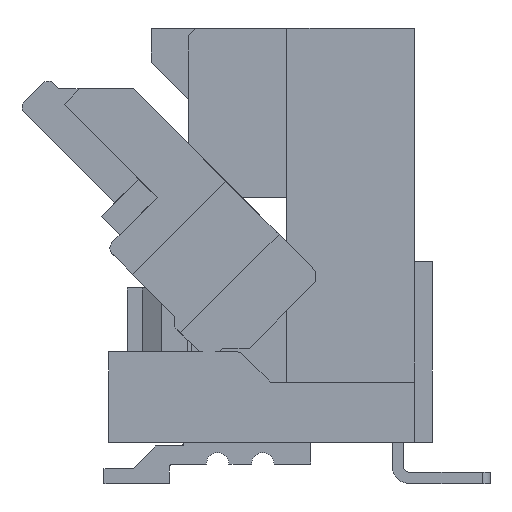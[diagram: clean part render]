
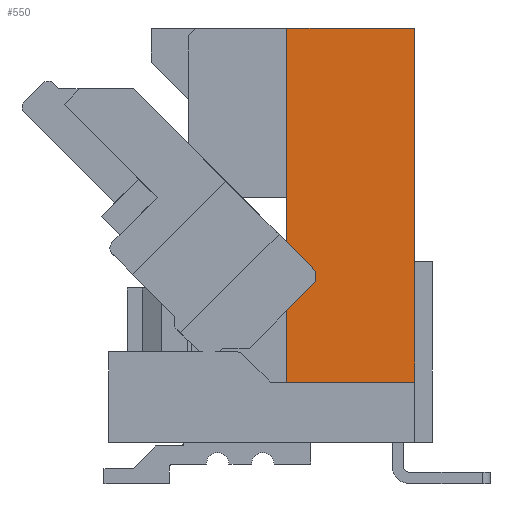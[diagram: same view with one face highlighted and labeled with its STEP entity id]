
A CAD part, left-side view. The second image highlights one B-rep face of the part: STEP entity #550.
In plain terms, the highlighted planar face has unit normal (-1, 0, 0).
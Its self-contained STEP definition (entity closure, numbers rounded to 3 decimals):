
#550=ADVANCED_FACE('',(#2570),#1635,.F.);
#1635=PLANE('',#22730);
#2570=FACE_OUTER_BOUND('',#3713,.T.);
#3713=EDGE_LOOP('',(#6888,#6889,#6890,#6891));
#6888=ORIENTED_EDGE('',*,*,#14292,.T.);
#6889=ORIENTED_EDGE('',*,*,#14469,.F.);
#6890=ORIENTED_EDGE('',*,*,#14780,.F.);
#6891=ORIENTED_EDGE('',*,*,#14369,.F.);
#12065=VERTEX_POINT('',#31314);
#12066=VERTEX_POINT('',#31316);
#12125=VERTEX_POINT('',#31459);
#12191=VERTEX_POINT('',#31651);
#14292=EDGE_CURVE('',#12066,#12065,#17492,.T.);
#14369=EDGE_CURVE('',#12066,#12125,#17566,.T.);
#14469=EDGE_CURVE('',#12191,#12065,#17664,.T.);
#14780=EDGE_CURVE('',#12125,#12191,#17971,.T.);
#17492=LINE('',#31315,#20369);
#17566=LINE('',#31466,#20443);
#17664=LINE('',#31652,#20541);
#17971=LINE('',#32246,#20848);
#20369=VECTOR('',#24923,1.);
#20443=VECTOR('',#25027,1.);
#20541=VECTOR('',#25173,1.);
#20848=VECTOR('',#25746,1.);
#22730=AXIS2_PLACEMENT_3D('',#32249,#25750,#25751);
#24923=DIRECTION('',(0.,1.,0.));
#25027=DIRECTION('',(0.,0.,-1.));
#25173=DIRECTION('',(0.,0.,1.));
#25746=DIRECTION('',(0.,1.,0.));
#25750=DIRECTION('',(1.,0.,0.));
#25751=DIRECTION('',(0.,1.,0.));
#31314=CARTESIAN_POINT('',(-4.85,1.93,5.5));
#31315=CARTESIAN_POINT('',(-4.85,1.93,5.5));
#31316=CARTESIAN_POINT('',(-4.85,0.23,5.5));
#31459=CARTESIAN_POINT('',(-4.85,0.23,0.8));
#31466=CARTESIAN_POINT('',(-4.85,0.23,5.5));
#31651=CARTESIAN_POINT('',(-4.85,1.93,0.8));
#31652=CARTESIAN_POINT('',(-4.85,1.93,0.8));
#32246=CARTESIAN_POINT('',(-4.85,0.23,0.8));
#32249=CARTESIAN_POINT('',(-4.85,0.23,5.5));
